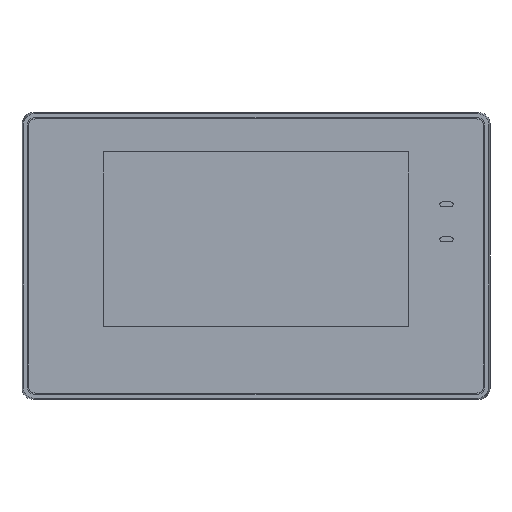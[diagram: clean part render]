
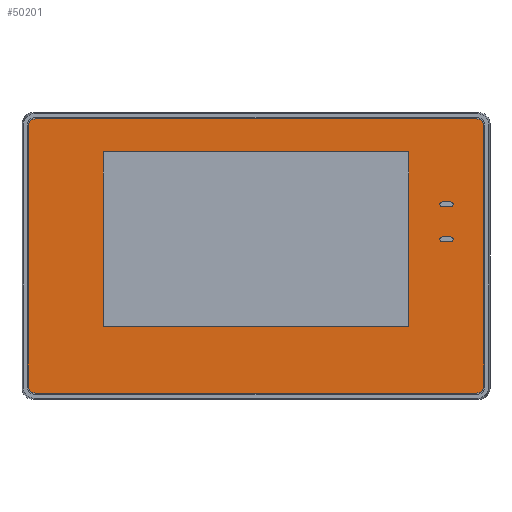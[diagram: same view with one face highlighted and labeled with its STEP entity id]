
A CAD part, top view. The second image highlights one B-rep face of the part: STEP entity #50201.
In plain terms, the highlighted planar face has unit normal (0, 0, 1).
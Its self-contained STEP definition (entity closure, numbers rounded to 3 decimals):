
#49632=DIRECTION('',(0.,-1.,0.));
#49633=VECTOR('',#49632,54.96);
#49634=CARTESIAN_POINT('',(-48.07,32.73,2.85));
#49635=LINE('',#49634,#49633);
#49639=DIRECTION('',(1.,0.,0.));
#49640=VECTOR('',#49639,96.14);
#49641=CARTESIAN_POINT('',(-48.07,-22.23,2.85));
#49642=LINE('',#49641,#49640);
#49646=DIRECTION('',(0.,1.,0.));
#49647=VECTOR('',#49646,54.96);
#49648=CARTESIAN_POINT('',(48.07,-22.23,2.85));
#49649=LINE('',#49648,#49647);
#49653=DIRECTION('',(-1.,0.,0.));
#49654=VECTOR('',#49653,96.14);
#49655=CARTESIAN_POINT('',(48.07,32.73,2.85));
#49656=LINE('',#49655,#49654);
#49660=DIRECTION('',(-1.,0.,0.));
#49661=VECTOR('',#49660,2.7);
#49662=CARTESIAN_POINT('',(61.25,17.,2.85));
#49663=LINE('',#49662,#49661);
#49667=DIRECTION('',(1.,0.,0.));
#49668=VECTOR('',#49667,2.7);
#49669=CARTESIAN_POINT('',(58.55,15.5,2.85));
#49670=LINE('',#49669,#49668);
#49674=DIRECTION('',(1.,0.,0.));
#49675=VECTOR('',#49674,2.7);
#49676=CARTESIAN_POINT('',(58.55,4.5,2.85));
#49677=LINE('',#49676,#49675);
#49681=DIRECTION('',(-1.,0.,0.));
#49682=VECTOR('',#49681,2.7);
#49683=CARTESIAN_POINT('',(61.25,6.,2.85));
#49684=LINE('',#49683,#49682);
#49688=CARTESIAN_POINT('',(-69.4,40.9,2.85));
#49689=DIRECTION('',(0.,0.,1.));
#49690=DIRECTION('',(0.,1.,0.));
#49691=AXIS2_PLACEMENT_3D('',#49688,#49689,#49690);
#49696=DIRECTION('',(1.,0.,0.));
#49697=VECTOR('',#49696,138.8);
#49698=CARTESIAN_POINT('',(-69.4,43.1,2.85));
#49699=LINE('',#49698,#49697);
#49703=CARTESIAN_POINT('',(69.4,40.9,2.85));
#49704=DIRECTION('',(0.,0.,1.));
#49705=DIRECTION('',(1.,0.,0.));
#49706=AXIS2_PLACEMENT_3D('',#49703,#49704,#49705);
#49711=DIRECTION('',(0.,-1.,0.));
#49712=VECTOR('',#49711,81.8);
#49713=CARTESIAN_POINT('',(71.6,40.9,2.85));
#49714=LINE('',#49713,#49712);
#49718=CARTESIAN_POINT('',(69.4,-40.9,2.85));
#49719=DIRECTION('',(0.,0.,1.));
#49720=DIRECTION('',(0.,-1.,0.));
#49721=AXIS2_PLACEMENT_3D('',#49718,#49719,#49720);
#49726=DIRECTION('',(-1.,0.,0.));
#49727=VECTOR('',#49726,138.8);
#49728=CARTESIAN_POINT('',(69.4,-43.1,2.85));
#49729=LINE('',#49728,#49727);
#49733=CARTESIAN_POINT('',(-69.4,-40.9,2.85));
#49734=DIRECTION('',(0.,0.,1.));
#49735=DIRECTION('',(-1.,0.,0.));
#49736=AXIS2_PLACEMENT_3D('',#49733,#49734,#49735);
#49741=DIRECTION('',(0.,1.,0.));
#49742=VECTOR('',#49741,81.8);
#49743=CARTESIAN_POINT('',(-71.6,-40.9,2.85));
#49744=LINE('',#49743,#49742);
#49833=CARTESIAN_POINT('',(61.25,16.25,2.85));
#49834=DIRECTION('',(0.,0.,-1.));
#49835=DIRECTION('',(0.,1.,0.));
#49836=AXIS2_PLACEMENT_3D('',#49833,#49834,#49835);
#49870=CARTESIAN_POINT('',(58.55,16.25,2.85));
#49871=DIRECTION('',(0.,0.,-1.));
#49872=DIRECTION('',(0.,-1.,0.));
#49873=AXIS2_PLACEMENT_3D('',#49870,#49871,#49872);
#49907=CARTESIAN_POINT('',(58.55,5.25,2.85));
#49908=DIRECTION('',(0.,0.,-1.));
#49909=DIRECTION('',(0.,-1.,0.));
#49910=AXIS2_PLACEMENT_3D('',#49907,#49908,#49909);
#49937=CARTESIAN_POINT('',(61.25,5.25,2.85));
#49938=DIRECTION('',(0.,0.,-1.));
#49939=DIRECTION('',(0.,1.,0.));
#49940=AXIS2_PLACEMENT_3D('',#49937,#49938,#49939);
#50076=CARTESIAN_POINT('',(-48.07,32.73,2.85));
#50077=CARTESIAN_POINT('',(-48.07,-22.23,2.85));
#50078=VERTEX_POINT('',#50076);
#50079=VERTEX_POINT('',#50077);
#50080=CARTESIAN_POINT('',(48.07,-22.23,2.85));
#50081=VERTEX_POINT('',#50080);
#50082=CARTESIAN_POINT('',(48.07,32.73,2.85));
#50083=VERTEX_POINT('',#50082);
#50084=CARTESIAN_POINT('',(61.25,17.,2.85));
#50085=CARTESIAN_POINT('',(58.55,17.,2.85));
#50086=VERTEX_POINT('',#50084);
#50087=VERTEX_POINT('',#50085);
#50088=CARTESIAN_POINT('',(58.55,15.5,2.85));
#50089=CARTESIAN_POINT('',(61.25,15.5,2.85));
#50090=VERTEX_POINT('',#50088);
#50091=VERTEX_POINT('',#50089);
#50092=CARTESIAN_POINT('',(61.25,6.,2.85));
#50093=CARTESIAN_POINT('',(58.55,6.,2.85));
#50094=VERTEX_POINT('',#50092);
#50095=VERTEX_POINT('',#50093);
#50096=CARTESIAN_POINT('',(58.55,4.5,2.85));
#50097=CARTESIAN_POINT('',(61.25,4.5,2.85));
#50098=VERTEX_POINT('',#50096);
#50099=VERTEX_POINT('',#50097);
#50100=CARTESIAN_POINT('',(-69.4,43.1,2.85));
#50101=CARTESIAN_POINT('',(-71.6,40.9,2.85));
#50102=VERTEX_POINT('',#50100);
#50103=VERTEX_POINT('',#50101);
#50108=CARTESIAN_POINT('',(71.6,40.9,2.85));
#50109=CARTESIAN_POINT('',(69.4,43.1,2.85));
#50110=VERTEX_POINT('',#50108);
#50111=VERTEX_POINT('',#50109);
#50116=CARTESIAN_POINT('',(69.4,-43.1,2.85));
#50117=CARTESIAN_POINT('',(71.6,-40.9,2.85));
#50118=VERTEX_POINT('',#50116);
#50119=VERTEX_POINT('',#50117);
#50124=CARTESIAN_POINT('',(-71.6,-40.9,2.85));
#50125=CARTESIAN_POINT('',(-69.4,-43.1,2.85));
#50126=VERTEX_POINT('',#50124);
#50127=VERTEX_POINT('',#50125);
#50148=CARTESIAN_POINT('',(0.,0.,2.85));
#50149=DIRECTION('',(0.,0.,1.));
#50150=DIRECTION('',(1.,0.,0.));
#50151=AXIS2_PLACEMENT_3D('',#50148,#50149,#50150);
#50152=PLANE('',#50151);
#50154=ORIENTED_EDGE('',*,*,#50153,.F.);
#50156=ORIENTED_EDGE('',*,*,#50155,.T.);
#50158=ORIENTED_EDGE('',*,*,#50157,.F.);
#50160=ORIENTED_EDGE('',*,*,#50159,.T.);
#50162=ORIENTED_EDGE('',*,*,#50161,.F.);
#50164=ORIENTED_EDGE('',*,*,#50163,.T.);
#50166=ORIENTED_EDGE('',*,*,#50165,.F.);
#50168=ORIENTED_EDGE('',*,*,#50167,.T.);
#50169=EDGE_LOOP('',(#50154,#50156,#50158,#50160,#50162,#50164,#50166,#50168));
#50170=FACE_OUTER_BOUND('',#50169,.F.);
#50172=ORIENTED_EDGE('',*,*,#50171,.T.);
#50174=ORIENTED_EDGE('',*,*,#50173,.F.);
#50176=ORIENTED_EDGE('',*,*,#50175,.T.);
#50178=ORIENTED_EDGE('',*,*,#50177,.F.);
#50179=EDGE_LOOP('',(#50172,#50174,#50176,#50178));
#50180=FACE_BOUND('',#50179,.F.);
#50182=ORIENTED_EDGE('',*,*,#50181,.T.);
#50184=ORIENTED_EDGE('',*,*,#50183,.F.);
#50186=ORIENTED_EDGE('',*,*,#50185,.T.);
#50188=ORIENTED_EDGE('',*,*,#50187,.F.);
#50189=EDGE_LOOP('',(#50182,#50184,#50186,#50188));
#50190=FACE_BOUND('',#50189,.F.);
#50192=ORIENTED_EDGE('',*,*,#50191,.T.);
#50194=ORIENTED_EDGE('',*,*,#50193,.T.);
#50196=ORIENTED_EDGE('',*,*,#50195,.T.);
#50198=ORIENTED_EDGE('',*,*,#50197,.T.);
#50199=EDGE_LOOP('',(#50192,#50194,#50196,#50198));
#50200=FACE_BOUND('',#50199,.F.);
#49692=CIRCLE('',#49691,2.2);
#49707=CIRCLE('',#49706,2.2);
#49722=CIRCLE('',#49721,2.2);
#49737=CIRCLE('',#49736,2.2);
#49837=CIRCLE('',#49836,0.75);
#49874=CIRCLE('',#49873,0.75);
#49911=CIRCLE('',#49910,0.75);
#49941=CIRCLE('',#49940,0.75);
#50153=EDGE_CURVE('',#50102,#50103,#49692,.T.);
#50155=EDGE_CURVE('',#50102,#50111,#49699,.T.);
#50157=EDGE_CURVE('',#50110,#50111,#49707,.T.);
#50159=EDGE_CURVE('',#50110,#50119,#49714,.T.);
#50161=EDGE_CURVE('',#50118,#50119,#49722,.T.);
#50163=EDGE_CURVE('',#50118,#50127,#49729,.T.);
#50165=EDGE_CURVE('',#50126,#50127,#49737,.T.);
#50167=EDGE_CURVE('',#50126,#50103,#49744,.T.);
#50171=EDGE_CURVE('',#50086,#50087,#49663,.T.);
#50173=EDGE_CURVE('',#50090,#50087,#49874,.T.);
#50175=EDGE_CURVE('',#50090,#50091,#49670,.T.);
#50177=EDGE_CURVE('',#50086,#50091,#49837,.T.);
#50181=EDGE_CURVE('',#50098,#50099,#49677,.T.);
#50183=EDGE_CURVE('',#50094,#50099,#49941,.T.);
#50185=EDGE_CURVE('',#50094,#50095,#49684,.T.);
#50187=EDGE_CURVE('',#50098,#50095,#49911,.T.);
#50191=EDGE_CURVE('',#50078,#50079,#49635,.T.);
#50193=EDGE_CURVE('',#50079,#50081,#49642,.T.);
#50195=EDGE_CURVE('',#50081,#50083,#49649,.T.);
#50197=EDGE_CURVE('',#50083,#50078,#49656,.T.);
#50201=ADVANCED_FACE('',(#50170,#50180,#50190,#50200),#50152,.T.);
